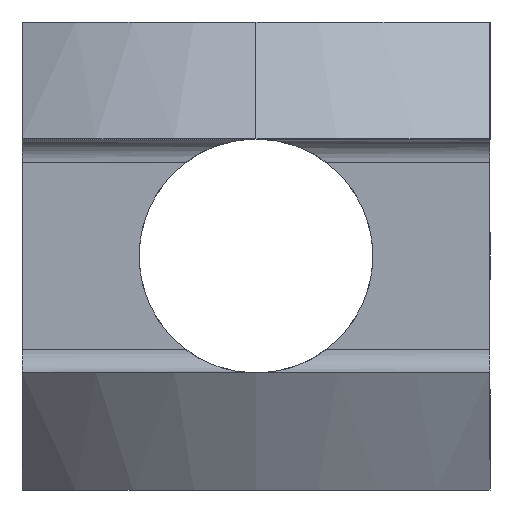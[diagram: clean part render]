
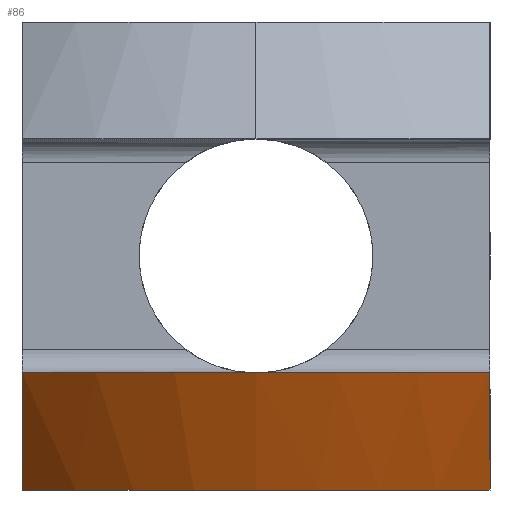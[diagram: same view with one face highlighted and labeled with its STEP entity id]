
A CAD part, left-side view. The second image highlights one B-rep face of the part: STEP entity #86.
In plain terms, the highlighted conical face has half-angle 30 degrees and reference radius 20 mm.
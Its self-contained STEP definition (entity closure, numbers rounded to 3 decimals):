
#86 = ADVANCED_FACE ( 'NONE', ( #544 ), #542, .T. ) ;
#87 = EDGE_LOOP ( 'NONE', ( #88, #89, #90, #91 ) ) ;
#88 = ORIENTED_EDGE ( 'NONE', *, *, #233, .F. ) ;
#89 = ORIENTED_EDGE ( 'NONE', *, *, #374, .F. ) ;
#90 = ORIENTED_EDGE ( 'NONE', *, *, #355, .T. ) ;
#91 = ORIENTED_EDGE ( 'NONE', *, *, #291, .F. ) ;
#233 = EDGE_CURVE ( 'NONE', #317, #288, #838, .T. ) ;
#288 = VERTEX_POINT ( 'NONE', #910 ) ;
#291 = EDGE_CURVE ( 'NONE', #288, #300, #909, .T. ) ;
#300 = VERTEX_POINT ( 'NONE', #947 ) ;
#317 = VERTEX_POINT ( 'NONE', #961 ) ;
#355 = EDGE_CURVE ( 'NONE', #356, #300, #1099, .T. ) ;
#356 = VERTEX_POINT ( 'NONE', #1091 ) ;
#374 = EDGE_CURVE ( 'NONE', #356, #317, #1118, .T. ) ;
#537 = DIRECTION ( 'NONE',  ( 1., 0., 0. ) ) ;
#538 = DIRECTION ( 'NONE',  ( 0., 0., 1. ) ) ;
#539 = AXIS2_PLACEMENT_3D ( 'NONE', #541, #538, #537 ) ;
#541 = CARTESIAN_POINT ( 'NONE',  ( -52., 0., -5. ) ) ;
#542 = CONICAL_SURFACE ( 'NONE', #539, 20., 0.524 ) ;
#544 = FACE_OUTER_BOUND ( 'NONE', #87, .T. ) ;
#834 = DIRECTION ( 'NONE',  ( 1., 0., 0. ) ) ;
#835 = DIRECTION ( 'NONE',  ( 0., 0., 1. ) ) ;
#836 = CARTESIAN_POINT ( 'NONE',  ( -52., 0., -5. ) ) ;
#837 = AXIS2_PLACEMENT_3D ( 'NONE', #836, #835, #834 ) ;
#838 = CIRCLE ( 'NONE', #837, 20. ) ;
#903 = CARTESIAN_POINT ( 'NONE',  ( -65.888, -10., -10. ) ) ;
#904 = CARTESIAN_POINT ( 'NONE',  ( -67.06, -10., -8.352 ) ) ;
#905 = CARTESIAN_POINT ( 'NONE',  ( -68.199, -10., -6.682 ) ) ;
#906 = CARTESIAN_POINT ( 'NONE',  ( -69.321, -10., -5. ) ) ;
#909 = B_SPLINE_CURVE_WITH_KNOTS ( 'NONE', 3,
 ( #906, #905, #904, #903 ),
 .UNSPECIFIED., .F., .F.,
 ( 4, 4 ),
 ( 0.015, 0.021 ),
 .UNSPECIFIED. ) ;
#910 = CARTESIAN_POINT ( 'NONE',  ( -69.321, -10., -5. ) ) ;
#947 = CARTESIAN_POINT ( 'NONE',  ( -65.888, -10., -10. ) ) ;
#961 = CARTESIAN_POINT ( 'NONE',  ( -69.321, 10., -5. ) ) ;
#1091 = CARTESIAN_POINT ( 'NONE',  ( -65.888, 10., -10. ) ) ;
#1092 = DIRECTION ( 'NONE',  ( 1., 0., 0. ) ) ;
#1093 = DIRECTION ( 'NONE',  ( 0., 0., 1. ) ) ;
#1094 = CARTESIAN_POINT ( 'NONE',  ( -52., 0., -10. ) ) ;
#1095 = AXIS2_PLACEMENT_3D ( 'NONE', #1094, #1093, #1092 ) ;
#1099 = CIRCLE ( 'NONE', #1095, 17.113 ) ;
#1113 = CARTESIAN_POINT ( 'NONE',  ( -69.321, 10., -5. ) ) ;
#1114 = CARTESIAN_POINT ( 'NONE',  ( -68.199, 10., -6.682 ) ) ;
#1115 = CARTESIAN_POINT ( 'NONE',  ( -67.06, 10., -8.352 ) ) ;
#1116 = CARTESIAN_POINT ( 'NONE',  ( -65.888, 10., -10. ) ) ;
#1118 = B_SPLINE_CURVE_WITH_KNOTS ( 'NONE', 3,
 ( #1116, #1115, #1114, #1113 ),
 .UNSPECIFIED., .F., .F.,
 ( 4, 4 ),
 ( 0.036, 0.042 ),
 .UNSPECIFIED. ) ;
